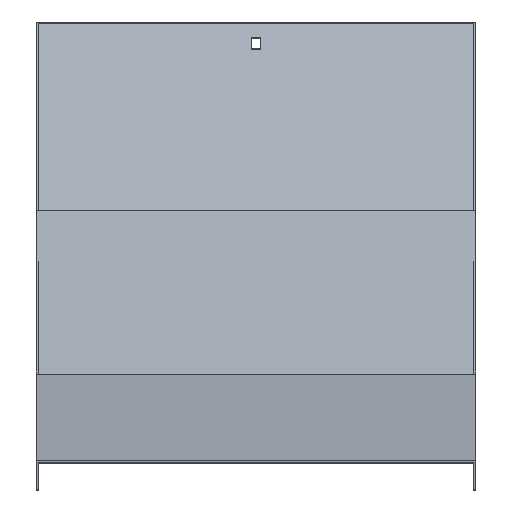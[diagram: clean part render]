
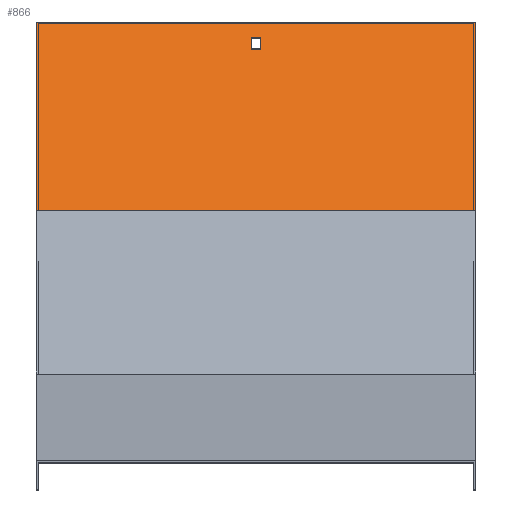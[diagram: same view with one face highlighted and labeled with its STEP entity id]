
A CAD part, top view. The second image highlights one B-rep face of the part: STEP entity #866.
In plain terms, the highlighted planar face has unit normal (0, 0.5, 0.866).
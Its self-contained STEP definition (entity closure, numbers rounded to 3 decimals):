
#22 = EDGE_CURVE ( 'NONE', #648, #515, #124, .T. ) ;
#35 = DIRECTION ( 'NONE',  ( 0., -0.866, 0.5 ) ) ;
#42 = VECTOR ( 'NONE', #724, 1000. ) ;
#49 = VECTOR ( 'NONE', #342, 1000. ) ;
#58 = DIRECTION ( 'NONE',  ( -1., 0., 0. ) ) ;
#59 = LINE ( 'NONE', #760, #112 ) ;
#60 = VERTEX_POINT ( 'NONE', #130 ) ;
#81 = AXIS2_PLACEMENT_3D ( 'NONE', #201, #797, #35 ) ;
#92 = VECTOR ( 'NONE', #456, 1000. ) ;
#103 = CARTESIAN_POINT ( 'NONE',  ( 3.25, 292.566, -518.739 ) ) ;
#112 = VECTOR ( 'NONE', #661, 1000. ) ;
#124 = LINE ( 'NONE', #961, #246 ) ;
#130 = CARTESIAN_POINT ( 'NONE',  ( 151.5, 173.228, -449.839 ) ) ;
#133 = CARTESIAN_POINT ( 'NONE',  ( -3.25, 284.772, -514.239 ) ) ;
#142 = ORIENTED_EDGE ( 'NONE', *, *, #244, .T. ) ;
#169 = VERTEX_POINT ( 'NONE', #296 ) ;
#201 = CARTESIAN_POINT ( 'NONE',  ( 151.5, 173.228, -449.839 ) ) ;
#202 = VECTOR ( 'NONE', #428, 1000. ) ;
#204 = ORIENTED_EDGE ( 'NONE', *, *, #22, .F. ) ;
#209 = VERTEX_POINT ( 'NONE', #535 ) ;
#218 = VERTEX_POINT ( 'NONE', #632 ) ;
#239 = EDGE_CURVE ( 'NONE', #209, #977, #481, .T. ) ;
#244 = EDGE_CURVE ( 'NONE', #60, #634, #880, .T. ) ;
#246 = VECTOR ( 'NONE', #359, 1000. ) ;
#254 = ORIENTED_EDGE ( 'NONE', *, *, #569, .T. ) ;
#286 = EDGE_LOOP ( 'NONE', ( #297, #483, #465, #856 ) ) ;
#287 = LINE ( 'NONE', #440, #690 ) ;
#288 = LINE ( 'NONE', #133, #202 ) ;
#296 = CARTESIAN_POINT ( 'NONE',  ( 3.25, 292.566, -518.739 ) ) ;
#297 = ORIENTED_EDGE ( 'NONE', *, *, #954, .F. ) ;
#331 = CARTESIAN_POINT ( 'NONE',  ( 151.5, 173.228, -449.839 ) ) ;
#342 = DIRECTION ( 'NONE',  ( 0., 0.866, -0.5 ) ) ;
#359 = DIRECTION ( 'NONE',  ( 0., 0.866, -0.5 ) ) ;
#394 = CARTESIAN_POINT ( 'NONE',  ( 3.25, 284.772, -514.239 ) ) ;
#419 = PLANE ( 'NONE',  #81 ) ;
#428 = DIRECTION ( 'NONE',  ( 0., -0.866, 0.5 ) ) ;
#433 = LINE ( 'NONE', #675, #92 ) ;
#440 = CARTESIAN_POINT ( 'NONE',  ( 151.5, 302.958, -524.739 ) ) ;
#456 = DIRECTION ( 'NONE',  ( 0., 0.866, -0.5 ) ) ;
#465 = ORIENTED_EDGE ( 'NONE', *, *, #900, .F. ) ;
#481 = LINE ( 'NONE', #394, #848 ) ;
#483 = ORIENTED_EDGE ( 'NONE', *, *, #239, .F. ) ;
#487 = EDGE_CURVE ( 'NONE', #169, #218, #872, .T. ) ;
#515 = VERTEX_POINT ( 'NONE', #863 ) ;
#533 = ORIENTED_EDGE ( 'NONE', *, *, #973, .F. ) ;
#535 = CARTESIAN_POINT ( 'NONE',  ( -3.25, 284.772, -514.239 ) ) ;
#569 = EDGE_CURVE ( 'NONE', #634, #515, #287, .T. ) ;
#632 = CARTESIAN_POINT ( 'NONE',  ( -3.25, 292.566, -518.739 ) ) ;
#634 = VERTEX_POINT ( 'NONE', #674 ) ;
#648 = VERTEX_POINT ( 'NONE', #903 ) ;
#661 = DIRECTION ( 'NONE',  ( -1., 0., 0. ) ) ;
#674 = CARTESIAN_POINT ( 'NONE',  ( 151.5, 302.958, -524.739 ) ) ;
#675 = CARTESIAN_POINT ( 'NONE',  ( 3.25, 284.772, -514.239 ) ) ;
#690 = VECTOR ( 'NONE', #58, 1000. ) ;
#719 = FACE_OUTER_BOUND ( 'NONE', #800, .T. ) ;
#724 = DIRECTION ( 'NONE',  ( -1., 0., 0. ) ) ;
#760 = CARTESIAN_POINT ( 'NONE',  ( 151.5, 173.228, -449.839 ) ) ;
#797 = DIRECTION ( 'NONE',  ( 0., 0.5, 0.866 ) ) ;
#800 = EDGE_LOOP ( 'NONE', ( #204, #533, #142, #254 ) ) ;
#848 = VECTOR ( 'NONE', #955, 1000. ) ;
#856 = ORIENTED_EDGE ( 'NONE', *, *, #487, .F. ) ;
#863 = CARTESIAN_POINT ( 'NONE',  ( -151.5, 302.958, -524.739 ) ) ;
#866 = ADVANCED_FACE ( 'NONE', ( #888, #719 ), #419, .T. ) ;
#872 = LINE ( 'NONE', #103, #42 ) ;
#880 = LINE ( 'NONE', #331, #49 ) ;
#888 = FACE_BOUND ( 'NONE', #286, .T. ) ;
#900 = EDGE_CURVE ( 'NONE', #218, #209, #288, .T. ) ;
#903 = CARTESIAN_POINT ( 'NONE',  ( -151.5, 173.228, -449.839 ) ) ;
#954 = EDGE_CURVE ( 'NONE', #977, #169, #433, .T. ) ;
#955 = DIRECTION ( 'NONE',  ( 1., 0., 0. ) ) ;
#961 = CARTESIAN_POINT ( 'NONE',  ( -151.5, 173.228, -449.839 ) ) ;
#973 = EDGE_CURVE ( 'NONE', #60, #648, #59, .T. ) ;
#974 = CARTESIAN_POINT ( 'NONE',  ( 3.25, 284.772, -514.239 ) ) ;
#977 = VERTEX_POINT ( 'NONE', #974 ) ;
